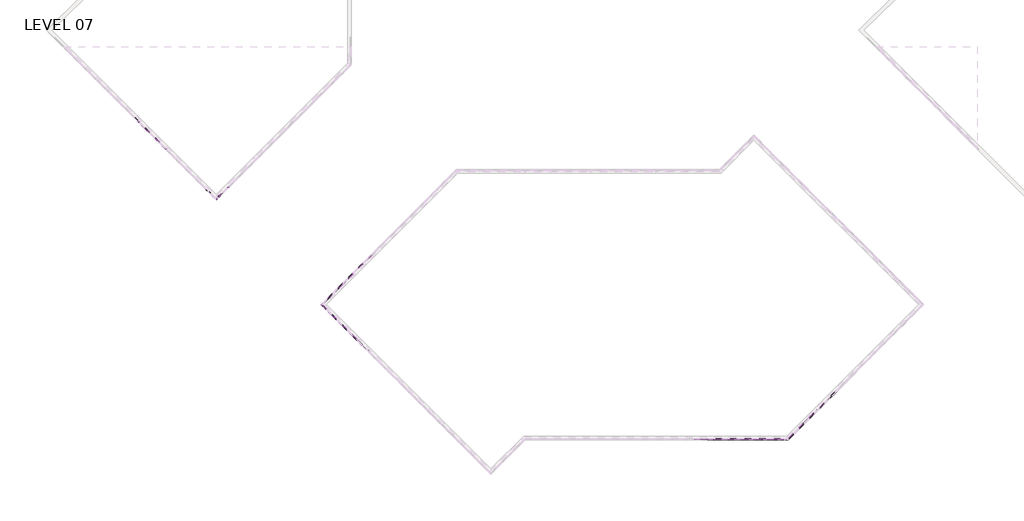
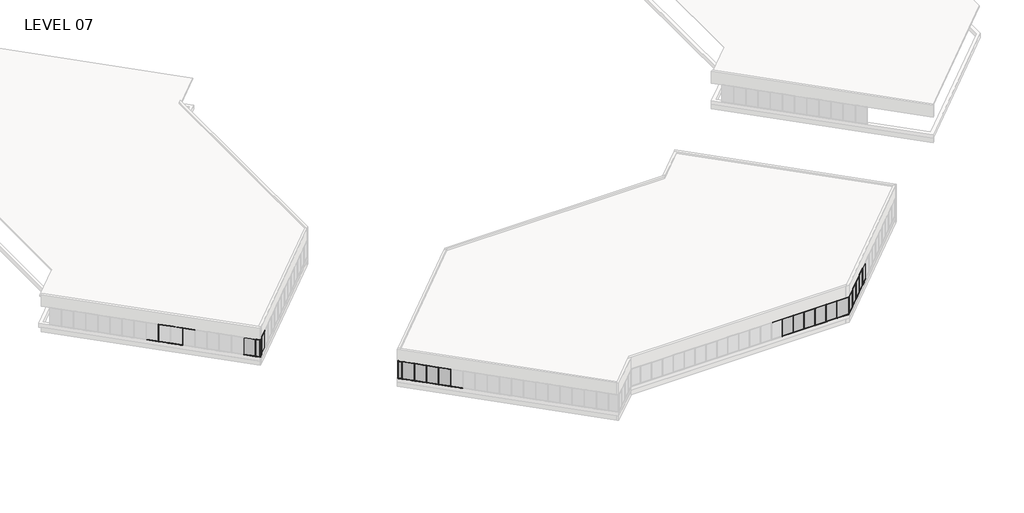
# One storey, part 2 of 18: 86 members, 25 plates.
"""IFC4 building model written with IfcOpenShell, lengths in millimetres."""

from ifc_helpers import new_model, si_unit, origin, place, context, project, spatial, transform, mapped, element, save
from components import member_5247f267, member_e44af9ab, member_800970d4, member_1bd862b2, member_7ca0f77f, member_25b26a38, member_ed9c17d6, plate_67294edd, plate_bbcbcabf, plate_3fb62afd, plate_6d527a83, plate_e0fd5134, plate_62af1d3c

model = new_model("IFC4")

# Units and contexts
model_context = context("Model", 3, world=origin())
ifc_project = project(units=[si_unit("LENGTHUNIT", "METRE", prefix="MILLI")], contexts=[model_context])

# Site, building, storey
site = spatial("IfcSite", under=ifc_project)
building = spatial("IfcBuilding", under=site)
storey = spatial("IfcBuildingStorey", under=building, Name="LEVEL 07", Elevation=23368.0)

# Members
placement = place(None, origin())
member_shape = member_5247f267(model_context)
element("IfcMember", 1, ObjectType="Rectangular Mullion : 2\" x 4.5\" rectangular", at=placement, inside=storey, context=model_context, shape_type="MappedRepresentation", body=[
    mapped(member_shape, transform((39757.35, -5092.0171279, 23368.0), x_axis=(0.0, 0.0, -1.0), y_axis=(0.0, -1.0, 0.0), z_axis=(-1.0, 0.0, 0.0))),
])
element("IfcMember", 2, ObjectType="Rectangular Mullion : 2\" x 4.5\" rectangular", at=placement, inside=storey, context=model_context, shape_type="MappedRepresentation", body=[
    mapped(member_shape, transform((44329.35, -5092.0171279, 23368.0), x_axis=(0.0, 0.0, -1.0), y_axis=(0.0, -1.0, 0.0), z_axis=(-1.0, 0.0, 0.0))),
])
element("IfcMember", 3, ObjectType="Rectangular Mullion : 2\" x 4.5\" rectangular", at=placement, inside=storey, context=model_context, shape_type="MappedRepresentation", body=[
    mapped(member_shape, transform((45853.35, -5092.0171279, 23368.0), x_axis=(0.0, 0.0, -1.0), y_axis=(0.0, -1.0, 0.0), z_axis=(-1.0, 0.0, 0.0))),
])
element("IfcMember", 4, ObjectType="Rectangular Mullion : 2\" x 4.5\" rectangular", at=placement, inside=storey, context=model_context, shape_type="MappedRepresentation", body=[
    mapped(member_shape, transform((41281.35, -5092.0171279, 23368.0), x_axis=(0.0, 0.0, -1.0), y_axis=(0.0, -1.0, 0.0), z_axis=(-1.0, 0.0, 0.0))),
])
element("IfcMember", 5, ObjectType="Rectangular Mullion : 2\" x 4.5\" rectangular", at=placement, inside=storey, context=model_context, shape_type="MappedRepresentation", body=[
    mapped(member_shape, transform((42805.35, -5092.0171279, 23368.0), x_axis=(0.0, 0.0, -1.0), y_axis=(0.0, -1.0, 0.0), z_axis=(-1.0, 0.0, 0.0))),
])
element("IfcMember", 6, ObjectType="Rectangular Mullion : 2\" x 4.5\" rectangular", at=placement, inside=storey, context=model_context, shape_type="MappedRepresentation", body=[
    mapped(member_shape, transform((50254.2406419, -3879.4326216, 23368.0), x_axis=(0.0, 0.0, -1.0), y_axis=(0.7071067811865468, -0.7071067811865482, 0.0), z_axis=(-0.7071067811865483, -0.7071067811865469, 0.0))),
])
element("IfcMember", 7, ObjectType="Rectangular Mullion : 2\" x 4.5\" rectangular", at=placement, inside=storey, context=model_context, shape_type="MappedRepresentation", body=[
    mapped(member_shape, transform((51331.8713765, -2801.801887, 23368.0), x_axis=(0.0, 0.0, -1.0), y_axis=(0.7071067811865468, -0.7071067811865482, 0.0), z_axis=(-0.7071067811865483, -0.7071067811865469, 0.0))),
])
element("IfcMember", 8, ObjectType="Rectangular Mullion : 2\" x 4.5\" rectangular", at=placement, inside=storey, context=model_context, shape_type="MappedRepresentation", body=[
    mapped(member_shape, transform((52409.502111, -1724.1711525, 23368.0), x_axis=(0.0, 0.0, -1.0), y_axis=(0.7071067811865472, -0.7071067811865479, 0.0), z_axis=(-0.7071067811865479, -0.7071067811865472, 0.0))),
])
element("IfcMember", 9, ObjectType="Rectangular Mullion : 2\" x 4.5\" rectangular", at=placement, inside=storey, context=model_context, shape_type="MappedRepresentation", body=[
    mapped(member_shape, transform((53487.1328455, -646.540418, 23368.0), x_axis=(0.0, 0.0, -1.0), y_axis=(0.7071067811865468, -0.7071067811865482, 0.0), z_axis=(-0.7071067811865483, -0.7071067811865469, 0.0))),
])
element("IfcMember", 10, ObjectType="Rectangular Mullion : 2\" x 4.5\" rectangular", at=placement, inside=storey, context=model_context, shape_type="MappedRepresentation", body=[
    mapped(member_shape, transform((-1378.4693146, 14091.4196932, 23368.0), x_axis=(0.0, 0.0, -1.0), y_axis=(-0.7071067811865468, 0.7071067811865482, 0.0), z_axis=(0.7071067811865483, 0.7071067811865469, 0.0))),
])
element("IfcMember", 11, ObjectType="Rectangular Mullion : 2\" x 4.5\" rectangular", at=placement, inside=storey, context=model_context, shape_type="MappedRepresentation", body=[
    mapped(member_shape, transform((-300.8459809, 15169.0430268, 23368.0), x_axis=(0.0, 0.0, -1.0), y_axis=(-0.7071067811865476, 0.7071067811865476, 0.0), z_axis=(0.7071067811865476, 0.7071067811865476, 0.0))),
])
element("IfcMember", 12, ObjectType="Rectangular Mullion : 2\" x 4.5\" rectangular", at=placement, inside=storey, context=model_context, shape_type="MappedRepresentation", body=[
    mapped(member_shape, transform((-2456.1000491, 13013.7889586, 23368.0), x_axis=(0.0, 0.0, -1.0), y_axis=(-0.7071067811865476, 0.7071067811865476, 0.0), z_axis=(0.7071067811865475, 0.7071067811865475, 0.0))),
])
element("IfcMember", 13, ObjectType="Rectangular Mullion : 2\" x 4.5\" rectangular", at=placement, inside=storey, context=model_context, shape_type="MappedRepresentation", body=[
    mapped(member_shape, transform((-3533.7307836, 11936.1582241, 23368.0), x_axis=(0.0, 0.0, -1.0), y_axis=(-0.7071067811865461, 0.7071067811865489, 0.0), z_axis=(0.7071067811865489, 0.7071067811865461, 0.0))),
])
element("IfcMember", 14, ObjectType="Rectangular Mullion : 2\" x 4.5\" rectangular", at=placement, inside=storey, context=model_context, shape_type="MappedRepresentation", body=[
    mapped(member_shape, transform((-2420.1790246, 7938.4057611, 23368.0), x_axis=(0.0, 0.0, -1.0), y_axis=(-0.7071067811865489, -0.7071067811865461, 0.0), z_axis=(-0.7071067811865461, 0.7071067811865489, 0.0))),
])
element("IfcMember", 15, ObjectType="Rectangular Mullion : 2\" x 4.5\" rectangular", at=placement, inside=storey, context=model_context, shape_type="MappedRepresentation", body=[
    mapped(member_shape, transform((-1342.5482901, 6860.7750266, 23368.0), x_axis=(0.0, 0.0, -1.0), y_axis=(-0.7071067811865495, -0.7071067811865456, 0.0), z_axis=(-0.7071067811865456, 0.7071067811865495, 0.0))),
])
element("IfcMember", 16, ObjectType="Rectangular Mullion : 2\" x 4.5\" rectangular", at=placement, inside=storey, context=model_context, shape_type="MappedRepresentation", body=[
    mapped(member_shape, transform((-3497.8097592, 9016.0364956, 23368.0), x_axis=(0.0, 0.0, -1.0), y_axis=(-0.7071067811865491, -0.7071067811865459, 0.0), z_axis=(-0.7071067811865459, 0.7071067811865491, 0.0))),
])
element("IfcMember", 17, ObjectType="Rectangular Mullion : 2\" x 4.5\" rectangular", at=placement, inside=storey, context=model_context, shape_type="MappedRepresentation", body=[
    mapped(member_shape, transform((-4575.4404937, 10093.6672302, 23368.0), x_axis=(0.0, 0.0, -1.0), y_axis=(-0.7071067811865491, -0.707106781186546, 0.0), z_axis=(-0.707106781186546, 0.7071067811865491, 0.0))),
])
element("IfcMember", 18, ObjectType="Rectangular Mullion : 2\" x 4.5\" rectangular", at=placement, inside=storey, context=model_context, shape_type="MappedRepresentation", body=[
    mapped(member_shape, transform((-264.9354228, 5783.1621593, 23368.0), x_axis=(0.0, 0.0, -1.0), y_axis=(-0.7071067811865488, -0.7071067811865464, 0.0), z_axis=(-0.7071067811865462, 0.7071067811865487, 0.0))),
])
element("IfcMember", 19, ObjectType="Rectangular Mullion : 2\" x 4.5\" rectangular", at=placement, inside=storey, context=model_context, shape_type="MappedRepresentation", body=[
    mapped(member_shape, transform((39706.55, -5092.0171279, 25958.8), x_axis=(0.0, 0.0, 1.0), y_axis=(0.0, -1.0, 0.0), z_axis=(1.0, 0.0, 0.0))),
])
element("IfcMember", 20, ObjectType="Rectangular Mullion : 2\" x 4.5\" rectangular", at=placement, inside=storey, context=model_context, shape_type="MappedRepresentation", body=[
    mapped(member_shape, transform((44278.55, -5092.0171279, 25958.8), x_axis=(0.0, 0.0, 1.0), y_axis=(0.0, -1.0, 0.0), z_axis=(1.0, 0.0, 0.0))),
])
element("IfcMember", 21, ObjectType="Rectangular Mullion : 2\" x 4.5\" rectangular", at=placement, inside=storey, context=model_context, shape_type="MappedRepresentation", body=[
    mapped(member_shape, transform((45802.55, -5092.0171279, 25958.8), x_axis=(0.0, 0.0, 1.0), y_axis=(0.0, -1.0, 0.0), z_axis=(1.0, 0.0, 0.0))),
])
element("IfcMember", 22, ObjectType="Rectangular Mullion : 2\" x 4.5\" rectangular", at=placement, inside=storey, context=model_context, shape_type="MappedRepresentation", body=[
    mapped(member_shape, transform((41230.55, -5092.0171279, 25958.8), x_axis=(0.0, 0.0, 1.0), y_axis=(0.0, -1.0, 0.0), z_axis=(1.0, 0.0, 0.0))),
])
element("IfcMember", 23, ObjectType="Rectangular Mullion : 2\" x 4.5\" rectangular", at=placement, inside=storey, context=model_context, shape_type="MappedRepresentation", body=[
    mapped(member_shape, transform((42754.55, -5092.0171279, 25958.8), x_axis=(0.0, 0.0, 1.0), y_axis=(0.0, -1.0, 0.0), z_axis=(1.0, 0.0, 0.0))),
])
element("IfcMember", 24, ObjectType="Rectangular Mullion : 2\" x 4.5\" rectangular", at=placement, inside=storey, context=model_context, shape_type="MappedRepresentation", body=[
    mapped(member_shape, transform((47326.55, -5092.0171279, 25958.8), x_axis=(0.0, 0.0, 1.0), y_axis=(0.0, -1.0, 0.0), z_axis=(1.0, 0.0, 0.0))),
])
element("IfcMember", 25, ObjectType="Rectangular Mullion : 2\" x 4.5\" rectangular", at=placement, inside=storey, context=model_context, shape_type="MappedRepresentation", body=[
    mapped(member_shape, transform((51295.950352, -2837.7229115, 25958.8), x_axis=(0.0, 0.0, 1.0), y_axis=(0.7071067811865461, -0.7071067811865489, 0.0), z_axis=(0.7071067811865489, 0.7071067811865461, 0.0))),
])
element("IfcMember", 26, ObjectType="Rectangular Mullion : 2\" x 4.5\" rectangular", at=placement, inside=storey, context=model_context, shape_type="MappedRepresentation", body=[
    mapped(member_shape, transform((52373.5810865, -1760.092177, 25958.8), x_axis=(0.0, 0.0, 1.0), y_axis=(0.7071067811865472, -0.7071067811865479, 0.0), z_axis=(0.7071067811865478, 0.7071067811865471, 0.0))),
])
element("IfcMember", 27, ObjectType="Rectangular Mullion : 2\" x 4.5\" rectangular", at=placement, inside=storey, context=model_context, shape_type="MappedRepresentation", body=[
    mapped(member_shape, transform((53451.211821, -682.4614425, 25958.8), x_axis=(0.0, 0.0, 1.0), y_axis=(0.7071067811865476, -0.7071067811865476, 0.0), z_axis=(0.7071067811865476, 0.7071067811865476, 0.0))),
])
element("IfcMember", 28, ObjectType="Rectangular Mullion : 2\" x 4.5\" rectangular", at=placement, inside=storey, context=model_context, shape_type="MappedRepresentation", body=[
    mapped(member_shape, transform((-1342.5482901, 14127.3407176, 25958.8), x_axis=(0.0, 0.0, 1.0), y_axis=(-0.7071067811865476, 0.7071067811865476, 0.0), z_axis=(-0.7071067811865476, -0.7071067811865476, 0.0))),
])
element("IfcMember", 29, ObjectType="Rectangular Mullion : 2\" x 4.5\" rectangular", at=placement, inside=storey, context=model_context, shape_type="MappedRepresentation", body=[
    mapped(member_shape, transform((-264.9249564, 15204.9640513, 25958.8), x_axis=(0.0, 0.0, 1.0), y_axis=(-0.7071067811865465, 0.7071067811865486, 0.0), z_axis=(-0.7071067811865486, -0.7071067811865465, 0.0))),
])
element("IfcMember", 30, ObjectType="Rectangular Mullion : 2\" x 4.5\" rectangular", at=placement, inside=storey, context=model_context, shape_type="MappedRepresentation", body=[
    mapped(member_shape, transform((-2420.1790246, 13049.7099831, 25958.8), x_axis=(0.0, 0.0, 1.0), y_axis=(-0.7071067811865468, 0.7071067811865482, 0.0), z_axis=(-0.7071067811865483, -0.7071067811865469, 0.0))),
])
element("IfcMember", 31, ObjectType="Rectangular Mullion : 2\" x 4.5\" rectangular", at=placement, inside=storey, context=model_context, shape_type="MappedRepresentation", body=[
    mapped(member_shape, transform((-3497.8097592, 11972.0792486, 25958.8), x_axis=(0.0, 0.0, 1.0), y_axis=(-0.7071067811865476, 0.7071067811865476, 0.0), z_axis=(-0.7071067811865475, -0.7071067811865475, 0.0))),
])
element("IfcMember", 32, ObjectType="Rectangular Mullion : 2\" x 4.5\" rectangular", at=placement, inside=storey, context=model_context, shape_type="MappedRepresentation", body=[
    mapped(member_shape, transform((-4575.4404937, 10894.4485141, 25958.8), x_axis=(0.0, 0.0, 1.0), y_axis=(-0.7071067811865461, 0.7071067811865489, 0.0), z_axis=(-0.7071067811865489, -0.7071067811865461, 0.0))),
])
element("IfcMember", 33, ObjectType="Rectangular Mullion : 2\" x 4.5\" rectangular", at=placement, inside=storey, context=model_context, shape_type="MappedRepresentation", body=[
    mapped(member_shape, transform((-2456.1000491, 7974.3267856, 25958.8), x_axis=(0.0, 0.0, 1.0), y_axis=(-0.7071067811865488, -0.7071067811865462, 0.0), z_axis=(0.7071067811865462, -0.7071067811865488, 0.0))),
])
element("IfcMember", 34, ObjectType="Rectangular Mullion : 2\" x 4.5\" rectangular", at=placement, inside=storey, context=model_context, shape_type="MappedRepresentation", body=[
    mapped(member_shape, transform((-1378.4693146, 6896.6960511, 25958.8), x_axis=(0.0, 0.0, 1.0), y_axis=(-0.7071067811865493, -0.7071067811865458, 0.0), z_axis=(0.7071067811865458, -0.7071067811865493, 0.0))),
])
element("IfcMember", 35, ObjectType="Rectangular Mullion : 2\" x 4.5\" rectangular", at=placement, inside=storey, context=model_context, shape_type="MappedRepresentation", body=[
    mapped(member_shape, transform((-3533.7307836, 9051.9575201, 25958.8), x_axis=(0.0, 0.0, 1.0), y_axis=(-0.7071067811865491, -0.707106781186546, 0.0), z_axis=(0.707106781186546, -0.7071067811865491, 0.0))),
])
element("IfcMember", 36, ObjectType="Rectangular Mullion : 2\" x 4.5\" rectangular", at=placement, inside=storey, context=model_context, shape_type="MappedRepresentation", body=[
    mapped(member_shape, transform((-300.8564473, 5819.0831838, 25958.8), x_axis=(0.0, 0.0, 1.0), y_axis=(-0.7071067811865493, -0.7071067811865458, 0.0), z_axis=(0.7071067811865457, -0.7071067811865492, 0.0))),
])
member_2_shape = member_e44af9ab(model_context)
element("IfcMember", 37, ObjectType="Rectangular Mullion : 2\" x 4.5\" rectangular", at=placement, inside=storey, context=model_context, shape_type="MappedRepresentation", body=[
    mapped(member_2_shape, transform((39731.95, -5092.0171279, 23368.0), x_axis=(1.0, 0.0, 0.0), y_axis=(0.0, -1.0, 0.0), z_axis=(0.0, 0.0, -1.0))),
])
element("IfcMember", 38, ObjectType="Rectangular Mullion : 2\" x 4.5\" rectangular", at=placement, inside=storey, context=model_context, shape_type="MappedRepresentation", body=[
    mapped(member_2_shape, transform((44303.95, -5092.0171279, 23368.0), x_axis=(1.0, 0.0, 0.0), y_axis=(0.0, -1.0, 0.0), z_axis=(0.0, 0.0, -1.0))),
])
element("IfcMember", 39, ObjectType="Rectangular Mullion : 2\" x 4.5\" rectangular", at=placement, inside=storey, context=model_context, shape_type="MappedRepresentation", body=[
    mapped(member_2_shape, transform((45827.95, -5092.0171279, 23368.0), x_axis=(1.0, 0.0, 0.0), y_axis=(0.0, -1.0, 0.0), z_axis=(0.0, 0.0, -1.0))),
])
element("IfcMember", 40, ObjectType="Rectangular Mullion : 2\" x 4.5\" rectangular", at=placement, inside=storey, context=model_context, shape_type="MappedRepresentation", body=[
    mapped(member_2_shape, transform((41255.95, -5092.0171279, 23368.0), x_axis=(1.0, 0.0, 0.0), y_axis=(0.0, -1.0, 0.0), z_axis=(0.0, 0.0, -1.0))),
])
element("IfcMember", 41, ObjectType="Rectangular Mullion : 2\" x 4.5\" rectangular", at=placement, inside=storey, context=model_context, shape_type="MappedRepresentation", body=[
    mapped(member_2_shape, transform((42779.95, -5092.0171279, 23368.0), x_axis=(1.0, 0.0, 0.0), y_axis=(0.0, -1.0, 0.0), z_axis=(0.0, 0.0, -1.0))),
])
element("IfcMember", 42, ObjectType="Rectangular Mullion : 2\" x 4.5\" rectangular", at=placement, inside=storey, context=model_context, shape_type="MappedRepresentation", body=[
    mapped(member_2_shape, transform((47351.95, -5092.0171279, 23368.0), x_axis=(1.0, 0.0, 0.0), y_axis=(0.0, -1.0, 0.0), z_axis=(0.0, 0.0, -1.0))),
])
element("IfcMember", 43, ObjectType="Rectangular Mullion : 2\" x 4.5\" rectangular", at=placement, inside=storey, context=model_context, shape_type="MappedRepresentation", body=[
    mapped(member_2_shape, transform((50236.2801297, -3897.3931338, 23368.0), x_axis=(0.7071067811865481, 0.7071067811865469, 0.0), y_axis=(0.7071067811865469, -0.7071067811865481, 0.0), z_axis=(0.0, 0.0, -1.0))),
])
element("IfcMember", 44, ObjectType="Rectangular Mullion : 2\" x 4.5\" rectangular", at=placement, inside=storey, context=model_context, shape_type="MappedRepresentation", body=[
    mapped(member_2_shape, transform((51313.9108642, -2819.7623993, 23368.0), x_axis=(0.7071067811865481, 0.7071067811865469, 0.0), y_axis=(0.7071067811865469, -0.7071067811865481, 0.0), z_axis=(0.0, 0.0, -1.0))),
])
element("IfcMember", 45, ObjectType="Rectangular Mullion : 2\" x 4.5\" rectangular", at=placement, inside=storey, context=model_context, shape_type="MappedRepresentation", body=[
    mapped(member_2_shape, transform((52391.5415988, -1742.1316648, 23368.0), x_axis=(0.7071067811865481, 0.7071067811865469, 0.0), y_axis=(0.7071067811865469, -0.7071067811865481, 0.0), z_axis=(0.0, 0.0, -1.0))),
])
element("IfcMember", 46, ObjectType="Rectangular Mullion : 2\" x 4.5\" rectangular", at=placement, inside=storey, context=model_context, shape_type="MappedRepresentation", body=[
    mapped(member_2_shape, transform((53469.1723333, -664.5009302, 23368.0), x_axis=(0.7071067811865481, 0.7071067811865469, 0.0), y_axis=(0.7071067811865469, -0.7071067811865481, 0.0), z_axis=(0.0, 0.0, -1.0))),
])
element("IfcMember", 47, ObjectType="Rectangular Mullion : 2\" x 4.5\" rectangular", at=placement, inside=storey, context=model_context, shape_type="MappedRepresentation", body=[
    mapped(member_2_shape, transform((-1360.5088023, 14109.3802054, 23368.0), x_axis=(-0.7071067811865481, -0.7071067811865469, 0.0), y_axis=(-0.7071067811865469, 0.7071067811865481, 0.0), z_axis=(0.0, 0.0, -1.0))),
])
element("IfcMember", 48, ObjectType="Rectangular Mullion : 2\" x 4.5\" rectangular", at=placement, inside=storey, context=model_context, shape_type="MappedRepresentation", body=[
    mapped(member_2_shape, transform((-282.8854687, 15187.0035391, 23368.0), x_axis=(-0.7071067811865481, -0.7071067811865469, 0.0), y_axis=(-0.7071067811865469, 0.7071067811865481, 0.0), z_axis=(0.0, 0.0, -1.0))),
])
element("IfcMember", 49, ObjectType="Rectangular Mullion : 2\" x 4.5\" rectangular", at=placement, inside=storey, context=model_context, shape_type="MappedRepresentation", body=[
    mapped(member_2_shape, transform((-2438.1395369, 13031.7494709, 23368.0), x_axis=(-0.7071067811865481, -0.7071067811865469, 0.0), y_axis=(-0.7071067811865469, 0.7071067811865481, 0.0), z_axis=(0.0, 0.0, -1.0))),
])
element("IfcMember", 50, ObjectType="Rectangular Mullion : 2\" x 4.5\" rectangular", at=placement, inside=storey, context=model_context, shape_type="MappedRepresentation", body=[
    mapped(member_2_shape, transform((-3515.7702714, 11954.1187363, 23368.0), x_axis=(-0.7071067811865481, -0.7071067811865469, 0.0), y_axis=(-0.7071067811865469, 0.7071067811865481, 0.0), z_axis=(0.0, 0.0, -1.0))),
])
element("IfcMember", 51, ObjectType="Rectangular Mullion : 2\" x 4.5\" rectangular", at=placement, inside=storey, context=model_context, shape_type="MappedRepresentation", body=[
    mapped(member_2_shape, transform((-4593.4010059, 10876.4880018, 23368.0), x_axis=(-0.7071067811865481, -0.7071067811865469, 0.0), y_axis=(-0.7071067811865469, 0.7071067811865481, 0.0), z_axis=(0.0, 0.0, -1.0))),
])
element("IfcMember", 52, ObjectType="Rectangular Mullion : 2\" x 4.5\" rectangular", at=placement, inside=storey, context=model_context, shape_type="MappedRepresentation", body=[
    mapped(member_2_shape, transform((-2438.1395369, 7956.3662734, 23368.0), x_axis=(0.7071067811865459, -0.7071067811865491, 0.0), y_axis=(-0.7071067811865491, -0.7071067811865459, 0.0), z_axis=(0.0, 0.0, -1.0))),
])
element("IfcMember", 53, ObjectType="Rectangular Mullion : 2\" x 4.5\" rectangular", at=placement, inside=storey, context=model_context, shape_type="MappedRepresentation", body=[
    mapped(member_2_shape, transform((-1360.5088023, 6878.7355388, 23368.0), x_axis=(0.7071067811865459, -0.7071067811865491, 0.0), y_axis=(-0.7071067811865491, -0.7071067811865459, 0.0), z_axis=(0.0, 0.0, -1.0))),
])
element("IfcMember", 54, ObjectType="Rectangular Mullion : 2\" x 4.5\" rectangular", at=placement, inside=storey, context=model_context, shape_type="MappedRepresentation", body=[
    mapped(member_2_shape, transform((-3515.7702714, 9033.9970079, 23368.0), x_axis=(0.7071067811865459, -0.7071067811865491, 0.0), y_axis=(-0.7071067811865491, -0.7071067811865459, 0.0), z_axis=(0.0, 0.0, -1.0))),
])
element("IfcMember", 55, ObjectType="Rectangular Mullion : 2\" x 4.5\" rectangular", at=placement, inside=storey, context=model_context, shape_type="MappedRepresentation", body=[
    mapped(member_2_shape, transform((-4593.4010059, 10111.6277424, 23368.0), x_axis=(0.7071067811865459, -0.7071067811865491, 0.0), y_axis=(-0.7071067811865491, -0.7071067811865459, 0.0), z_axis=(0.0, 0.0, -1.0))),
])
element("IfcMember", 56, ObjectType="Rectangular Mullion : 2\" x 4.5\" rectangular", at=placement, inside=storey, context=model_context, shape_type="MappedRepresentation", body=[
    mapped(member_2_shape, transform((-282.8959351, 5801.1226716, 23368.0), x_axis=(0.7071067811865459, -0.7071067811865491, 0.0), y_axis=(-0.7071067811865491, -0.7071067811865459, 0.0), z_axis=(0.0, 0.0, -1.0))),
])
member_3_shape = member_800970d4(model_context)
element("IfcMember", 57, ObjectType="Rectangular Mullion : 2\" x 4.5\" rectangular", at=placement, inside=storey, context=model_context, shape_type="MappedRepresentation", body=[
    mapped(member_3_shape, transform((49041.6561356, -5092.0171279, 23368.0), x_axis=(1.0, 0.0, 0.0), y_axis=(0.0, -1.0, 0.0), z_axis=(0.0, 0.0, -1.0))),
])
element("IfcMember", 58, ObjectType="Rectangular Mullion : 2\" x 4.5\" rectangular", at=placement, inside=storey, context=model_context, shape_type="MappedRepresentation", body=[
    mapped(member_3_shape, transform((-4975.8311356, 10494.0578721, 23368.0), x_axis=(-0.7071067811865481, -0.7071067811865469, 0.0), y_axis=(-0.7071067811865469, 0.7071067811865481, 0.0), z_axis=(0.0, 0.0, -1.0))),
])
element("IfcMember", 59, ObjectType="Rectangular Mullion : 2\" x 4.5\" rectangular", at=placement, inside=storey, context=model_context, shape_type="MappedRepresentation", body=[
    mapped(member_3_shape, transform((49041.6561356, -5092.0171279, 25958.8), x_axis=(-0.7071067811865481, -0.7071067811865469, 0.0), y_axis=(0.7071067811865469, -0.7071067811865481, 0.0), z_axis=(0.0, 0.0, 1.0))),
])
element("IfcMember", 60, ObjectType="Rectangular Mullion : 2\" x 4.5\" rectangular", at=placement, inside=storey, context=model_context, shape_type="MappedRepresentation", body=[
    mapped(member_3_shape, transform((-4975.8311356, 10494.0578721, 25958.8), x_axis=(-0.7071067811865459, 0.7071067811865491, 0.0), y_axis=(-0.7071067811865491, -0.7071067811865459, 0.0), z_axis=(0.0, 0.0, 1.0))),
])
member_4_shape = member_1bd862b2(model_context)
element("IfcMember", 61, ObjectType="Rectangular Mullion : 2\" x 4.5\" rectangular", at=placement, inside=storey, context=model_context, shape_type="MappedRepresentation", body=[
    mapped(member_4_shape, transform((48990.8561356, -5092.0171279, 25958.8), x_axis=(0.0, 0.0, 1.0), y_axis=(0.0, -1.0, 0.0), z_axis=(1.0, 0.0, 0.0))),
])
element("IfcMember", 62, ObjectType="Rectangular Mullion : 2\" x 4.5\" rectangular", at=placement, inside=storey, context=model_context, shape_type="MappedRepresentation", body=[
    mapped(member_4_shape, transform((47377.35, -5092.0171279, 23368.0), x_axis=(0.0, 0.0, -1.0), y_axis=(0.0, -1.0, 0.0), z_axis=(-1.0, 0.0, 0.0))),
])
member_5_shape = member_7ca0f77f(model_context)
element("IfcMember", 63, ObjectType="Rectangular Mullion : 2\" x 4.5\" rectangular", at=placement, inside=storey, context=model_context, shape_type="MappedRepresentation", body=[
    mapped(member_5_shape, transform((50218.3196175, -3915.3536461, 25958.8), x_axis=(0.0, 0.0, 1.0), y_axis=(0.7071067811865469, -0.7071067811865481, 0.0), z_axis=(0.7071067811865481, 0.7071067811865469, 0.0))),
])
element("IfcMember", 64, ObjectType="Rectangular Mullion : 2\" x 4.5\" rectangular", at=placement, inside=storey, context=model_context, shape_type="MappedRepresentation", body=[
    mapped(member_5_shape, transform((49077.5771601, -5056.0961034, 23368.0), x_axis=(0.0, 0.0, -1.0), y_axis=(0.7071067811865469, -0.7071067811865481, 0.0), z_axis=(-0.7071067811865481, -0.7071067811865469, 0.0))),
])
member_6_shape = member_25b26a38(model_context)
element("IfcMember", 65, ObjectType="Rectangular Mullion : 2\" x 4.5\" rectangular", at=placement, inside=storey, context=model_context, shape_type="MappedRepresentation", body=[
    mapped(member_6_shape, transform((-4611.3615182, 10858.5274896, 23368.0), x_axis=(0.0, 0.0, -1.0), y_axis=(-0.7071067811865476, 0.7071067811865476, 0.0), z_axis=(0.7071067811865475, 0.7071067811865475, 0.0))),
])
element("IfcMember", 66, ObjectType="Rectangular Mullion : 2\" x 4.5\" rectangular", at=placement, inside=storey, context=model_context, shape_type="MappedRepresentation", body=[
    mapped(member_6_shape, transform((-4939.9101111, 10458.1368476, 23368.0), x_axis=(0.0, 0.0, -1.0), y_axis=(-0.7071067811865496, -0.7071067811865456, 0.0), z_axis=(-0.7071067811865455, 0.7071067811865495, 0.0))),
])
element("IfcMember", 67, ObjectType="Rectangular Mullion : 2\" x 4.5\" rectangular", at=placement, inside=storey, context=model_context, shape_type="MappedRepresentation", body=[
    mapped(member_6_shape, transform((-4939.9101111, 10529.9788966, 25958.8), x_axis=(0.0, 0.0, 1.0), y_axis=(-0.7071067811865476, 0.7071067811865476, 0.0), z_axis=(-0.7071067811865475, -0.7071067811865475, 0.0))),
])
element("IfcMember", 68, ObjectType="Rectangular Mullion : 2\" x 4.5\" rectangular", at=placement, inside=storey, context=model_context, shape_type="MappedRepresentation", body=[
    mapped(member_6_shape, transform((-4611.3615182, 10129.5882547, 25958.8), x_axis=(0.0, 0.0, 1.0), y_axis=(-0.707106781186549, -0.707106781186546, 0.0), z_axis=(0.707106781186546, -0.707106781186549, 0.0))),
])
element("IfcMember", 69, ObjectType="Rectangular Mullion : 2\" x 4.5\" rectangular", at=placement, inside=storey, context=model_context, shape_type="MappedRepresentation", body=[
    mapped(member_shape, transform((-16797.5690745, 23116.5770948, 25958.8), x_axis=(0.0, 0.0, 1.0), y_axis=(-0.7071067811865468, 0.7071067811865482, 0.0), z_axis=(-0.7071067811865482, -0.7071067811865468, 0.0))),
])
element("IfcMember", 70, ObjectType="Rectangular Mullion : 2\" x 4.5\" rectangular", at=placement, inside=storey, context=model_context, shape_type="MappedRepresentation", body=[
    mapped(member_shape, transform((-24028.142272, 29546.3690085, 25958.8), x_axis=(0.0, 0.0, 1.0), y_axis=(0.707106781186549, 0.7071067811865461, 0.0), z_axis=(-0.7071067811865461, 0.707106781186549, 0.0))),
])
element("IfcMember", 71, ObjectType="Rectangular Mullion : 2\" x 4.5\" rectangular", at=placement, inside=storey, context=model_context, shape_type="MappedRepresentation", body=[
    mapped(member_shape, transform((-25105.737272, 30623.9640085, 25958.8), x_axis=(0.0, 0.0, 1.0), y_axis=(0.7071067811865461, 0.707106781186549, 0.0), z_axis=(-0.707106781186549, 0.7071067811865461, 0.0))),
])
element("IfcMember", 72, ObjectType="Rectangular Mullion : 2\" x 4.5\" rectangular", at=placement, inside=storey, context=model_context, shape_type="MappedRepresentation", body=[
    mapped(member_shape, transform((-26183.332272, 31701.5590085, 25958.8), x_axis=(0.0, 0.0, 1.0), y_axis=(0.7071067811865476, 0.7071067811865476, 0.0), z_axis=(-0.7071067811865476, 0.7071067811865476, 0.0))),
])
element("IfcMember", 73, ObjectType="Rectangular Mullion : 2\" x 4.5\" rectangular", at=placement, inside=storey, context=model_context, shape_type="MappedRepresentation", body=[
    mapped(member_shape, transform((-24064.0632965, 29582.2900329, 23368.0), x_axis=(0.0, 0.0, -1.0), y_axis=(0.7071067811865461, 0.707106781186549, 0.0), z_axis=(0.707106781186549, -0.7071067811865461, 0.0))),
])
element("IfcMember", 74, ObjectType="Rectangular Mullion : 2\" x 4.5\" rectangular", at=placement, inside=storey, context=model_context, shape_type="MappedRepresentation", body=[
    mapped(member_shape, transform((-25141.6582965, 30659.8850329, 23368.0), x_axis=(0.0, 0.0, -1.0), y_axis=(0.7071067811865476, 0.7071067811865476, 0.0), z_axis=(0.7071067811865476, -0.7071067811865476, 0.0))),
])
element("IfcMember", 75, ObjectType="Rectangular Mullion : 2\" x 4.5\" rectangular", at=placement, inside=storey, context=model_context, shape_type="MappedRepresentation", body=[
    mapped(member_shape, transform((-17598.3503583, 23116.5770948, 23368.0), x_axis=(0.0, 0.0, -1.0), y_axis=(0.7071067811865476, 0.7071067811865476, 0.0), z_axis=(0.7071067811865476, -0.7071067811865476, 0.0))),
])
element("IfcMember", 76, ObjectType="Rectangular Mullion : 2\" x 4.5\" rectangular", at=placement, inside=storey, context=model_context, shape_type="MappedRepresentation", body=[
    mapped(member_2_shape, transform((-16815.5295867, 23098.6165826, 23368.0), x_axis=(-0.7071067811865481, -0.7071067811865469, 0.0), y_axis=(-0.7071067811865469, 0.7071067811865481, 0.0), z_axis=(0.0, 0.0, -1.0))),
])
element("IfcMember", 77, ObjectType="Rectangular Mullion : 2\" x 4.5\" rectangular", at=placement, inside=storey, context=model_context, shape_type="MappedRepresentation", body=[
    mapped(member_2_shape, transform((-24046.1027842, 29564.3295207, 23368.0), x_axis=(-0.7071067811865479, 0.7071067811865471, 0.0), y_axis=(0.7071067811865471, 0.7071067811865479, 0.0), z_axis=(0.0, 0.0, -1.0))),
])
element("IfcMember", 78, ObjectType="Rectangular Mullion : 2\" x 4.5\" rectangular", at=placement, inside=storey, context=model_context, shape_type="MappedRepresentation", body=[
    mapped(member_2_shape, transform((-26201.2927842, 31719.5195207, 23368.0), x_axis=(-0.7071067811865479, 0.7071067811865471, 0.0), y_axis=(0.7071067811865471, 0.7071067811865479, 0.0), z_axis=(0.0, 0.0, -1.0))),
])
element("IfcMember", 79, ObjectType="Rectangular Mullion : 2\" x 4.5\" rectangular", at=placement, inside=storey, context=model_context, shape_type="MappedRepresentation", body=[
    mapped(member_2_shape, transform((-17580.3898461, 23098.6165826, 23368.0), x_axis=(-0.7071067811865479, 0.7071067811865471, 0.0), y_axis=(0.7071067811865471, 0.7071067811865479, 0.0), z_axis=(0.0, 0.0, -1.0))),
])
element("IfcMember", 80, ObjectType="Rectangular Mullion : 2\" x 4.5\" rectangular", at=placement, inside=storey, context=model_context, shape_type="MappedRepresentation", body=[
    mapped(member_3_shape, transform((-17197.9597164, 22716.1864529, 23368.0), x_axis=(-0.7071067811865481, -0.7071067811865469, 0.0), y_axis=(-0.7071067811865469, 0.7071067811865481, 0.0), z_axis=(0.0, 0.0, -1.0))),
])
element("IfcMember", 81, ObjectType="Rectangular Mullion : 2\" x 4.5\" rectangular", at=placement, inside=storey, context=model_context, shape_type="MappedRepresentation", body=[
    mapped(member_3_shape, transform((-17197.9597164, 22716.1864529, 25958.8), x_axis=(0.7071067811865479, -0.7071067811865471, 0.0), y_axis=(0.7071067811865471, 0.7071067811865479, 0.0), z_axis=(0.0, 0.0, 1.0))),
])
element("IfcMember", 82, ObjectType="Rectangular Mullion : 2\" x 4.5\" rectangular", at=placement, inside=storey, context=model_context, shape_type="MappedRepresentation", body=[
    mapped(member_6_shape, transform((-17162.0386919, 22752.1074774, 25958.8), x_axis=(0.0, 0.0, 1.0), y_axis=(-0.7071067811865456, 0.7071067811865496, 0.0), z_axis=(-0.7071067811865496, -0.7071067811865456, 0.0))),
])
element("IfcMember", 83, ObjectType="Rectangular Mullion : 2\" x 4.5\" rectangular", at=placement, inside=storey, context=model_context, shape_type="MappedRepresentation", body=[
    mapped(member_6_shape, transform((-17562.4293339, 23080.6560704, 25958.8), x_axis=(0.0, 0.0, 1.0), y_axis=(0.7071067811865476, 0.7071067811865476, 0.0), z_axis=(-0.7071067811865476, 0.7071067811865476, 0.0))),
])
element("IfcMember", 84, ObjectType="Rectangular Mullion : 2\" x 4.5\" rectangular", at=placement, inside=storey, context=model_context, shape_type="MappedRepresentation", body=[
    mapped(member_6_shape, transform((-16833.4900989, 23080.6560704, 23368.0), x_axis=(0.0, 0.0, -1.0), y_axis=(-0.7071067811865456, 0.7071067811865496, 0.0), z_axis=(0.7071067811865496, 0.7071067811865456, 0.0))),
])
element("IfcMember", 85, ObjectType="Rectangular Mullion : 2\" x 4.5\" rectangular", at=placement, inside=storey, context=model_context, shape_type="MappedRepresentation", body=[
    mapped(member_6_shape, transform((-17233.8807409, 22752.1074774, 23368.0), x_axis=(0.0, 0.0, -1.0), y_axis=(0.7071067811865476, 0.7071067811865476, 0.0), z_axis=(0.7071067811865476, -0.7071067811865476, 0.0))),
])
member_7_shape = member_ed9c17d6(model_context)
element("IfcMember", 86, ObjectType="Rectangular Mullion : 2\" x 4.5\" rectangular", at=placement, inside=storey, context=model_context, shape_type="MappedRepresentation", body=[
    mapped(member_7_shape, transform((-26219.2532965, 31737.4800329, 23368.0), x_axis=(0.0, 0.0, -1.0), y_axis=(0.7071067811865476, 0.7071067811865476, 0.0), z_axis=(0.7071067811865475, -0.7071067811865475, 0.0))),
])

# Plates
plate_shape = plate_67294edd(model_context)
element("IfcPlate", 87, ObjectType="System Panel : 1/4\" Glass", at=placement, inside=storey, context=model_context, shape_type="MappedRepresentation", body=[
    mapped(plate_shape, transform((40493.95, -5092.0171279, 23418.8), x_axis=(1.0, 0.0, 0.0), y_axis=(0.0, 1.0, 0.0), z_axis=(0.0, 0.0, 1.0))),
])
element("IfcPlate", 88, ObjectType="System Panel : 1/4\" Glass", at=placement, inside=storey, context=model_context, shape_type="MappedRepresentation", body=[
    mapped(plate_shape, transform((45065.95, -5092.0171279, 23418.8), x_axis=(1.0, 0.0, 0.0), y_axis=(0.0, 1.0, 0.0), z_axis=(0.0, 0.0, 1.0))),
])
element("IfcPlate", 89, ObjectType="System Panel : 1/4\" Glass", at=placement, inside=storey, context=model_context, shape_type="MappedRepresentation", body=[
    mapped(plate_shape, transform((46589.95, -5092.0171279, 23418.8), x_axis=(1.0, 0.0, 0.0), y_axis=(0.0, 1.0, 0.0), z_axis=(0.0, 0.0, 1.0))),
])
element("IfcPlate", 90, ObjectType="System Panel : 1/4\" Glass", at=placement, inside=storey, context=model_context, shape_type="MappedRepresentation", body=[
    mapped(plate_shape, transform((42017.95, -5092.0171279, 23418.8), x_axis=(1.0, 0.0, 0.0), y_axis=(0.0, 1.0, 0.0), z_axis=(0.0, 0.0, 1.0))),
])
element("IfcPlate", 91, ObjectType="System Panel : 1/4\" Glass", at=placement, inside=storey, context=model_context, shape_type="MappedRepresentation", body=[
    mapped(plate_shape, transform((43541.95, -5092.0171279, 23418.8), x_axis=(1.0, 0.0, 0.0), y_axis=(0.0, 1.0, 0.0), z_axis=(0.0, 0.0, 1.0))),
])
element("IfcPlate", 92, ObjectType="System Panel : 1/4\" Glass", at=placement, inside=storey, context=model_context, shape_type="MappedRepresentation", body=[
    mapped(plate_shape, transform((50775.095497, -3358.5777665, 23418.8), x_axis=(0.7071067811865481, 0.7071067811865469, 0.0), y_axis=(-0.7071067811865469, 0.7071067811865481, 0.0), z_axis=(0.0, 0.0, 1.0))),
])
element("IfcPlate", 93, ObjectType="System Panel : 1/4\" Glass", at=placement, inside=storey, context=model_context, shape_type="MappedRepresentation", body=[
    mapped(plate_shape, transform((51852.7262315, -2280.947032, 23418.8), x_axis=(0.7071067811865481, 0.7071067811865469, 0.0), y_axis=(-0.7071067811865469, 0.7071067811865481, 0.0), z_axis=(0.0, 0.0, 1.0))),
])
element("IfcPlate", 94, ObjectType="System Panel : 1/4\" Glass", at=placement, inside=storey, context=model_context, shape_type="MappedRepresentation", body=[
    mapped(plate_shape, transform((52930.356966, -1203.3162975, 23418.8), x_axis=(0.7071067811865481, 0.7071067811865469, 0.0), y_axis=(-0.7071067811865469, 0.7071067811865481, 0.0), z_axis=(0.0, 0.0, 1.0))),
])
element("IfcPlate", 95, ObjectType="System Panel : 1/4\" Glass", at=placement, inside=storey, context=model_context, shape_type="MappedRepresentation", body=[
    mapped(plate_shape, transform((54007.9877005, -125.685563, 23418.8), x_axis=(0.7071067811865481, 0.7071067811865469, 0.0), y_axis=(-0.7071067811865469, 0.7071067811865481, 0.0), z_axis=(0.0, 0.0, 1.0))),
])
element("IfcPlate", 96, ObjectType="System Panel : 1/4\" Glass", at=placement, inside=storey, context=model_context, shape_type="MappedRepresentation", body=[
    mapped(plate_shape, transform((-1899.3241696, 13570.5648381, 23418.8), x_axis=(-0.7071067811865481, -0.7071067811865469, 0.0), y_axis=(0.7071067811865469, -0.7071067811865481, 0.0), z_axis=(0.0, 0.0, 1.0))),
])
element("IfcPlate", 97, ObjectType="System Panel : 1/4\" Glass", at=placement, inside=storey, context=model_context, shape_type="MappedRepresentation", body=[
    mapped(plate_shape, transform((-2976.9549041, 12492.9341036, 23418.8), x_axis=(-0.7071067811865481, -0.7071067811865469, 0.0), y_axis=(0.7071067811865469, -0.7071067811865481, 0.0), z_axis=(0.0, 0.0, 1.0))),
])
element("IfcPlate", 98, ObjectType="System Panel : 1/4\" Glass", at=placement, inside=storey, context=model_context, shape_type="MappedRepresentation", body=[
    mapped(plate_shape, transform((-4054.5856387, 11415.3033691, 23418.8), x_axis=(-0.7071067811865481, -0.7071067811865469, 0.0), y_axis=(0.7071067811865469, -0.7071067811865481, 0.0), z_axis=(0.0, 0.0, 1.0))),
])
element("IfcPlate", 99, ObjectType="System Panel : 1/4\" Glass", at=placement, inside=storey, context=model_context, shape_type="MappedRepresentation", body=[
    mapped(plate_shape, transform((-1899.3241696, 7417.5509061, 23418.8), x_axis=(0.7071067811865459, -0.7071067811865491, 0.0), y_axis=(0.7071067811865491, 0.7071067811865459, 0.0), z_axis=(0.0, 0.0, 1.0))),
])
element("IfcPlate", 100, ObjectType="System Panel : 1/4\" Glass", at=placement, inside=storey, context=model_context, shape_type="MappedRepresentation", body=[
    mapped(plate_shape, transform((-2976.9549041, 8495.1816406, 23418.8), x_axis=(0.7071067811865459, -0.7071067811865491, 0.0), y_axis=(0.7071067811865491, 0.7071067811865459, 0.0), z_axis=(0.0, 0.0, 1.0))),
])
element("IfcPlate", 101, ObjectType="System Panel : 1/4\" Glass", at=placement, inside=storey, context=model_context, shape_type="MappedRepresentation", body=[
    mapped(plate_shape, transform((-4054.5856387, 9572.8123752, 23418.8), x_axis=(0.7071067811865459, -0.7071067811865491, 0.0), y_axis=(0.7071067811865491, 0.7071067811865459, 0.0), z_axis=(0.0, 0.0, 1.0))),
])
plate_2_shape = plate_bbcbcabf(model_context)
element("IfcPlate", 102, ObjectType="System Panel : 1/4\" Glass", at=placement, inside=storey, context=model_context, shape_type="MappedRepresentation", body=[
    mapped(plate_2_shape, transform((48184.1030678, -5092.0171279, 23418.8), x_axis=(1.0, 0.0, 0.0), y_axis=(0.0, 1.0, 0.0), z_axis=(0.0, 0.0, 1.0))),
])
plate_3_shape = plate_3fb62afd(model_context)
element("IfcPlate", 103, ObjectType="System Panel : 1/4\" Glass", at=placement, inside=storey, context=model_context, shape_type="MappedRepresentation", body=[
    mapped(plate_3_shape, transform((49647.9483888, -4485.7248747, 23418.8), x_axis=(0.7071067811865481, 0.7071067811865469, 0.0), y_axis=(-0.7071067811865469, 0.7071067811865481, 0.0), z_axis=(0.0, 0.0, 1.0))),
])
plate_4_shape = plate_6d527a83(model_context)
element("IfcPlate", 104, ObjectType="System Panel : 1/4\" Glass", at=placement, inside=storey, context=model_context, shape_type="MappedRepresentation", body=[
    mapped(plate_4_shape, transform((-4775.6358147, 10694.2531931, 23418.8), x_axis=(-0.7071067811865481, -0.7071067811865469, 0.0), y_axis=(0.7071067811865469, -0.7071067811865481, 0.0), z_axis=(0.0, 0.0, 1.0))),
])
element("IfcPlate", 105, ObjectType="System Panel : 1/4\" Glass", at=placement, inside=storey, context=model_context, shape_type="MappedRepresentation", body=[
    mapped(plate_4_shape, transform((-4775.6358147, 10293.8625511, 23418.8), x_axis=(0.7071067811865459, -0.7071067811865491, 0.0), y_axis=(0.7071067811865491, 0.7071067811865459, 0.0), z_axis=(0.0, 0.0, 1.0))),
])
plate_5_shape = plate_e0fd5134(model_context)
element("IfcPlate", 106, ObjectType="System Panel : 1/4\" Glass", at=placement, inside=storey, context=model_context, shape_type="MappedRepresentation", body=[
    mapped(plate_5_shape, transform((-821.6971355, 14648.1918722, 23418.8), x_axis=(-0.7071067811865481, -0.7071067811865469, 0.0), y_axis=(0.7071067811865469, -0.7071067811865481, 0.0), z_axis=(0.0, 0.0, 1.0))),
])
plate_6_shape = plate_62af1d3c(model_context)
element("IfcPlate", 107, ObjectType="System Panel : 1/4\" Glass", at=placement, inside=storey, context=model_context, shape_type="MappedRepresentation", body=[
    mapped(plate_6_shape, transform((-821.7023687, 6339.9291052, 23418.8), x_axis=(0.7071067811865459, -0.7071067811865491, 0.0), y_axis=(0.7071067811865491, 0.7071067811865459, 0.0), z_axis=(0.0, 0.0, 1.0))),
])
element("IfcPlate", 108, ObjectType="System Panel : 1/4\" Glass", at=placement, inside=storey, context=model_context, shape_type="MappedRepresentation", body=[
    mapped(plate_shape, transform((-16276.7142194, 23637.4319499, 23418.8), x_axis=(-0.7071067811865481, -0.7071067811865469, 0.0), y_axis=(0.7071067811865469, -0.7071067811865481, 0.0), z_axis=(0.0, 0.0, 1.0))),
])
element("IfcPlate", 109, ObjectType="System Panel : 1/4\" Glass", at=placement, inside=storey, context=model_context, shape_type="MappedRepresentation", body=[
    mapped(plate_shape, transform((-18119.2052134, 23637.4319499, 23418.8), x_axis=(-0.7071067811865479, 0.7071067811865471, 0.0), y_axis=(-0.7071067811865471, -0.7071067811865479, 0.0), z_axis=(0.0, 0.0, 1.0))),
])
element("IfcPlate", 110, ObjectType="System Panel : 1/4\" Glass", at=placement, inside=storey, context=model_context, shape_type="MappedRepresentation", body=[
    mapped(plate_4_shape, transform((-16997.7643954, 22916.3817739, 23418.8), x_axis=(-0.7071067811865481, -0.7071067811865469, 0.0), y_axis=(0.7071067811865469, -0.7071067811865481, 0.0), z_axis=(0.0, 0.0, 1.0))),
])
element("IfcPlate", 111, ObjectType="System Panel : 1/4\" Glass", at=placement, inside=storey, context=model_context, shape_type="MappedRepresentation", body=[
    mapped(plate_4_shape, transform((-17398.1550374, 22916.3817739, 23418.8), x_axis=(-0.7071067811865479, 0.7071067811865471, 0.0), y_axis=(-0.7071067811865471, -0.7071067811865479, 0.0), z_axis=(0.0, 0.0, 1.0))),
])

save(model, "model.ifc")
